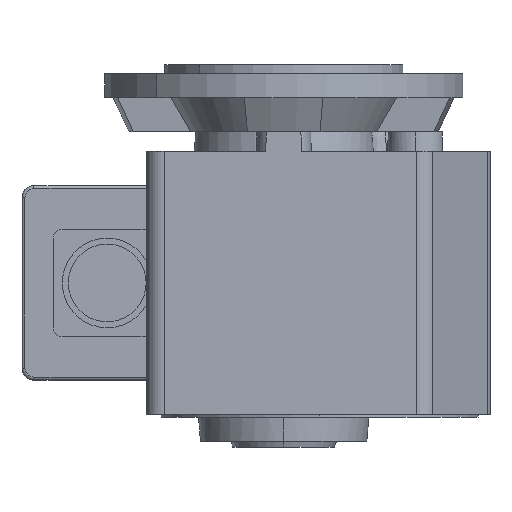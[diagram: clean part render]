
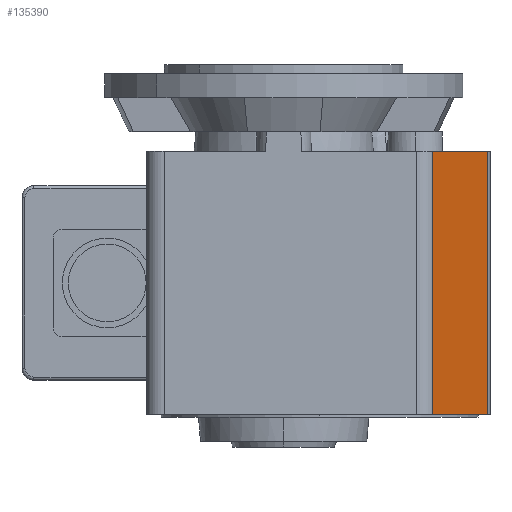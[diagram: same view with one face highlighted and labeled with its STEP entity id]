
A CAD part, left-side view. The second image highlights one B-rep face of the part: STEP entity #135390.
In plain terms, the highlighted planar face has unit normal (-0.5, -0.866, 0) as drawn and (0, -0.866, 0.5) by its records, which use the part's own axes.
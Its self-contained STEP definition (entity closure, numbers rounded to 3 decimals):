
#71040=CARTESIAN_POINT('',(-177.458,-344.21,259.5));
#71050=VERTEX_POINT('',#71040);
#71080=CARTESIAN_POINT('',(-177.458,-342.477,262.5));
#71090=DIRECTION('',(0.,0.5,0.866));
#71100=VECTOR('',#71090,1.);
#71110=LINE('',#71080,#71100);
#71120=CARTESIAN_POINT('',(-177.458,-362.674,
227.519));
#71130=VERTEX_POINT('',#71120);
#71140=EDGE_CURVE('',#71130,#71050,#71110,.T.);
#135090=CARTESIAN_POINT('',(-80.658,-368.278,
217.812));
#135100=DIRECTION('',(0.,0.866,-0.5));
#135110=DIRECTION('',(0.,0.5,0.866));
#135120=AXIS2_PLACEMENT_3D('',#135090,#135100,#135110);
#135130=PLANE('',#135120);
#135140=ORIENTED_EDGE('',*,*,#71140,.F.);
#135150=CARTESIAN_POINT('',(-172.685,-344.21,259.5));
#135160=DIRECTION('',(-1.,0.,0.));
#135170=VECTOR('',#135160,1.);
#135180=LINE('',#135150,#135170);
#135190=CARTESIAN_POINT('',(-89.458,-344.21,259.5));
#135200=VERTEX_POINT('',#135190);
#135210=EDGE_CURVE('',#135200,#71050,#135180,.T.);
#135220=ORIENTED_EDGE('',*,*,#135210,.T.);
#135230=CARTESIAN_POINT('',(-89.458,-342.477,262.5));
#135240=DIRECTION('',(0.,-0.5,-0.866));
#135250=VECTOR('',#135240,1.);
#135260=LINE('',#135230,#135250);
#135270=CARTESIAN_POINT('',(-89.458,-362.674,
227.519));
#135280=VERTEX_POINT('',#135270);
#135290=EDGE_CURVE('',#135200,#135280,#135260,.T.);
#135300=ORIENTED_EDGE('',*,*,#135290,.F.);
#135310=CARTESIAN_POINT('',(-172.685,-362.674,
227.519));
#135320=DIRECTION('',(1.,0.,0.));
#135330=VECTOR('',#135320,1.);
#135340=LINE('',#135310,#135330);
#135350=EDGE_CURVE('',#71130,#135280,#135340,.T.);
#135360=ORIENTED_EDGE('',*,*,#135350,.T.);
#135370=EDGE_LOOP('',(#135360,#135300,#135220,#135140));
#135380=FACE_OUTER_BOUND('',#135370,.T.);
#135390=ADVANCED_FACE('',(#135380),#135130,.F.);
